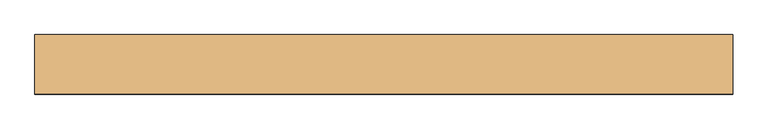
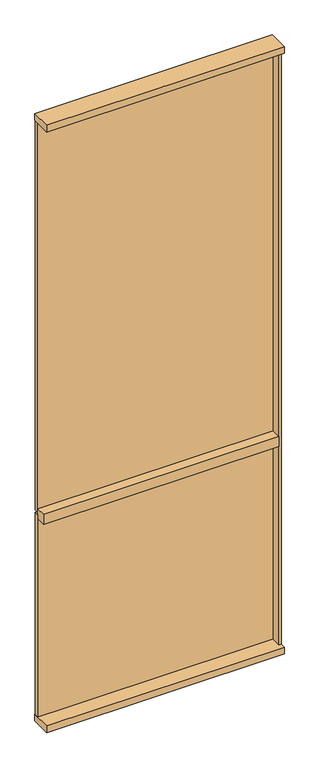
"""IFC4 building model written with IfcOpenShell, lengths in millimetres: door geometry, Mobiliário_Mobiliário de Escritório_Painel Lambri - ACML (Complementar)_Marelli : ACML."""

from ifc_helpers import new_model, si_unit, frame, origin, origin_with_axes, place, context, project, spatial, polyline, outline, extrude, source, transform, mapped, element, save


def door_c5224017(model_context):
    return source(origin(), model_context, "Body", "SweptSolid", [
        extrude(outline(polyline([(500.0, 42.5), (500.0, -42.5), (-500.0, -42.5), (-500.0, 42.5), (500.0, 42.5)])), origin_with_axes(), (0.0, 0.0, 1.0), 30.0),
        extrude(outline(polyline([(490.0, 39.5), (490.0, 21.5), (-500.0, 21.5), (-500.0, 39.5), (490.0, 39.5)])), frame((0.0, 0.0, 30.0), z_axis=(0.0, 0.0, 1.0), x_axis=(1.0, 0.0, 0.0)), (0.0, 0.0, 1.0), 900.0),
        extrude(outline(polyline([(490.0, 21.5), (490.0, -21.5), (-500.0, -21.5), (-500.0, 21.5), (490.0, 21.5)])), frame((0.0, 0.0, 913.5), z_axis=(0.0, 0.0, 1.0), x_axis=(1.0, 0.0, 0.0)), (0.0, 0.0, 1.0), 43.0),
        extrude(outline(polyline([(500.0, 42.5), (500.0, -42.5), (-500.0, -42.5), (-500.0, 42.5), (500.0, 42.5)])), frame((0.0, 0.0, 2670.0), z_axis=(0.0, 0.0, 1.0), x_axis=(1.0, 0.0, 0.0)), (0.0, 0.0, 1.0), 30.0),
        extrude(outline(polyline([(500.0, -21.5), (490.0, -21.5), (490.0, 21.5), (500.0, 21.5), (500.0, -21.5)])), frame((0.0, 0.0, 30.0), z_axis=(0.0, 0.0, 1.0), x_axis=(1.0, 0.0, 0.0)), (0.0, 0.0, 1.0), 2640.0),
        extrude(outline(polyline([(490.0, 39.5), (490.0, 21.5), (-500.0, 21.5), (-500.0, 39.5), (490.0, 39.5)])), frame((0.0, 0.0, 940.0), z_axis=(0.0, 0.0, 1.0), x_axis=(1.0, 0.0, 0.0)), (0.0, 0.0, 1.0), 1730.0),
    ])


if __name__ == "__main__":
    model = new_model("IFC4")
    model_context = context("Model", 3, world=origin())
    ifc_project = project(units=[si_unit("LENGTHUNIT", "METRE", prefix="MILLI")], contexts=[model_context])
    site = spatial("IfcSite", under=ifc_project)
    building = spatial("IfcBuilding", under=site)
    placement = place(None, origin())
    door_shape = door_c5224017(model_context)
    element("IfcDoor", 1, ObjectType="Mobiliário_Mobiliário de Escritório_Painel Lambri - ACML (Complementar)_Marelli : ACML", at=placement, inside=building, context=model_context, shape_type="MappedRepresentation", body=[
        mapped(door_shape, transform((0.0, 0.0, 0.0), x_axis=(1.0, 0.0, 0.0), y_axis=(0.0, 1.0, 0.0), z_axis=(0.0, 0.0, 1.0))),
    ])
    save(model, "model.ifc")
